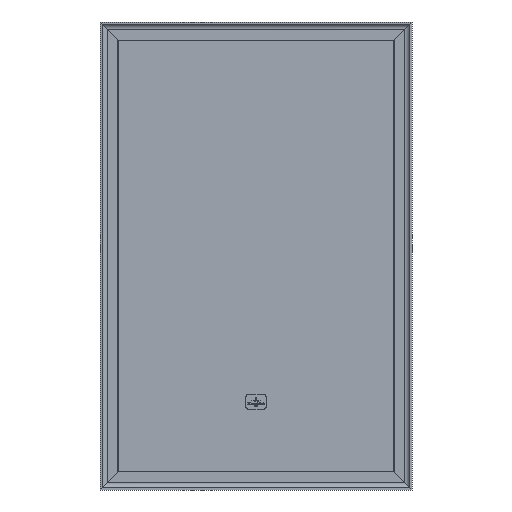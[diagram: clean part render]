
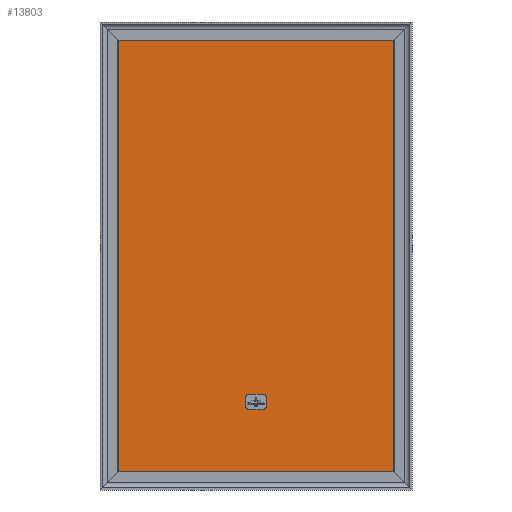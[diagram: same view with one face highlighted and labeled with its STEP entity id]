
A CAD part, front view. The second image highlights one B-rep face of the part: STEP entity #13803.
In plain terms, the highlighted planar face has unit normal (0, -1, 0).
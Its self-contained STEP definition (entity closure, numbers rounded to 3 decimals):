
#224=LINE('',#20070,#1799);
#234=LINE('',#20091,#1809);
#236=LINE('',#20095,#1811);
#237=LINE('',#20096,#1812);
#238=LINE('',#20099,#1813);
#239=LINE('',#20103,#1814);
#240=LINE('',#20107,#1815);
#241=LINE('',#20111,#1816);
#1799=VECTOR('',#16057,691.);
#1809=VECTOR('',#16075,442.);
#1811=VECTOR('',#16079,442.);
#1812=VECTOR('',#16080,691.);
#1813=VECTOR('',#16081,23.571);
#1814=VECTOR('',#16084,15.086);
#1815=VECTOR('',#16087,23.571);
#1816=VECTOR('',#16090,15.086);
#3321=PLANE('',#14671);
#3899=FACE_BOUND('',#4914,.T.);
#4087=FACE_OUTER_BOUND('',#4913,.T.);
#4913=EDGE_LOOP('',(#9802,#9803,#9804,#9805));
#4914=EDGE_LOOP('',(#9806,#9807,#9808,#9809,#9810,#9811,#9812,#9813));
#5819=CIRCLE('',#14672,4.714);
#5820=CIRCLE('',#14673,4.714);
#5821=CIRCLE('',#14674,4.714);
#5822=CIRCLE('',#14675,4.714);
#6268=VERTEX_POINT('',#20064);
#6270=VERTEX_POINT('',#20068);
#6277=VERTEX_POINT('',#20090);
#6278=VERTEX_POINT('',#20094);
#6279=VERTEX_POINT('',#20097);
#6280=VERTEX_POINT('',#20098);
#6281=VERTEX_POINT('',#20100);
#6282=VERTEX_POINT('',#20102);
#6283=VERTEX_POINT('',#20104);
#6284=VERTEX_POINT('',#20106);
#6285=VERTEX_POINT('',#20108);
#6286=VERTEX_POINT('',#20110);
#7662=EDGE_CURVE('',#6270,#6268,#224,.T.);
#7672=EDGE_CURVE('',#6268,#6277,#234,.T.);
#7674=EDGE_CURVE('',#6278,#6270,#236,.T.);
#7675=EDGE_CURVE('',#6277,#6278,#237,.T.);
#7676=EDGE_CURVE('',#6279,#6280,#238,.T.);
#7677=EDGE_CURVE('',#6280,#6281,#5819,.T.);
#7678=EDGE_CURVE('',#6281,#6282,#239,.T.);
#7679=EDGE_CURVE('',#6282,#6283,#5820,.T.);
#7680=EDGE_CURVE('',#6283,#6284,#240,.T.);
#7681=EDGE_CURVE('',#6284,#6285,#5821,.T.);
#7682=EDGE_CURVE('',#6285,#6286,#241,.T.);
#7683=EDGE_CURVE('',#6286,#6279,#5822,.T.);
#9802=ORIENTED_EDGE('',*,*,#7674,.F.);
#9803=ORIENTED_EDGE('',*,*,#7675,.F.);
#9804=ORIENTED_EDGE('',*,*,#7672,.F.);
#9805=ORIENTED_EDGE('',*,*,#7662,.F.);
#9806=ORIENTED_EDGE('',*,*,#7676,.T.);
#9807=ORIENTED_EDGE('',*,*,#7677,.T.);
#9808=ORIENTED_EDGE('',*,*,#7678,.T.);
#9809=ORIENTED_EDGE('',*,*,#7679,.T.);
#9810=ORIENTED_EDGE('',*,*,#7680,.T.);
#9811=ORIENTED_EDGE('',*,*,#7681,.T.);
#9812=ORIENTED_EDGE('',*,*,#7682,.T.);
#9813=ORIENTED_EDGE('',*,*,#7683,.T.);
#13803=ADVANCED_FACE('',(#4087,#3899),#3321,.T.);
#14671=AXIS2_PLACEMENT_3D('',#20093,#16077,#16078);
#14672=AXIS2_PLACEMENT_3D('',#20101,#16082,#16083);
#14673=AXIS2_PLACEMENT_3D('',#20105,#16085,#16086);
#14674=AXIS2_PLACEMENT_3D('',#20109,#16088,#16089);
#14675=AXIS2_PLACEMENT_3D('',#20112,#16091,#16092);
#16057=DIRECTION('',(0.,0.,1.));
#16075=DIRECTION('',(1.,0.,0.));
#16077=DIRECTION('center_axis',(0.,-1.,0.));
#16078=DIRECTION('ref_axis',(1.,0.,0.));
#16079=DIRECTION('',(-1.,0.,0.));
#16080=DIRECTION('',(0.,0.,-1.));
#16081=DIRECTION('',(-1.,0.,0.));
#16082=DIRECTION('center_axis',(0.,1.,0.));
#16083=DIRECTION('ref_axis',(-1.,0.,0.));
#16084=DIRECTION('',(0.,0.,1.));
#16085=DIRECTION('center_axis',(0.,1.,0.));
#16086=DIRECTION('ref_axis',(0.,0.,1.));
#16087=DIRECTION('',(1.,0.,0.));
#16088=DIRECTION('center_axis',(0.,1.,0.));
#16089=DIRECTION('ref_axis',(1.,0.,0.));
#16090=DIRECTION('',(0.,0.,-1.));
#16091=DIRECTION('center_axis',(0.,1.,0.));
#16092=DIRECTION('ref_axis',(0.,0.,-1.));
#20064=CARTESIAN_POINT('',(-221.,5.75,720.5));
#20068=CARTESIAN_POINT('',(-221.,5.75,29.5));
#20070=CARTESIAN_POINT('',(-221.,5.75,202.));
#20090=CARTESIAN_POINT('',(221.,5.75,720.5));
#20091=CARTESIAN_POINT('',(-335.75,5.75,720.5));
#20093=CARTESIAN_POINT('Origin',(-125.086,5.75,141.098));
#20094=CARTESIAN_POINT('',(221.,5.75,29.5));
#20095=CARTESIAN_POINT('',(35.75,5.75,29.5));
#20096=CARTESIAN_POINT('',(221.,5.75,548.));
#20097=CARTESIAN_POINT('',(11.786,5.75,129.));
#20098=CARTESIAN_POINT('',(-11.786,5.75,129.));
#20099=CARTESIAN_POINT('',(-31.65,5.75,129.));
#20100=CARTESIAN_POINT('',(-16.5,5.75,133.714));
#20101=CARTESIAN_POINT('Origin',(-11.786,5.75,133.714));
#20102=CARTESIAN_POINT('',(-16.5,5.75,148.8));
#20103=CARTESIAN_POINT('',(-16.5,5.75,137.406));
#20104=CARTESIAN_POINT('',(-11.786,5.75,153.514));
#20105=CARTESIAN_POINT('Origin',(-11.786,5.75,148.8));
#20106=CARTESIAN_POINT('',(11.786,5.75,153.514));
#20107=CARTESIAN_POINT('',(-43.436,5.75,153.514));
#20108=CARTESIAN_POINT('',(16.5,5.75,148.8));
#20109=CARTESIAN_POINT('Origin',(11.786,5.75,148.8));
#20110=CARTESIAN_POINT('',(16.5,5.75,133.714));
#20111=CARTESIAN_POINT('',(16.5,5.75,144.949));
#20112=CARTESIAN_POINT('Origin',(11.786,5.75,133.714));
